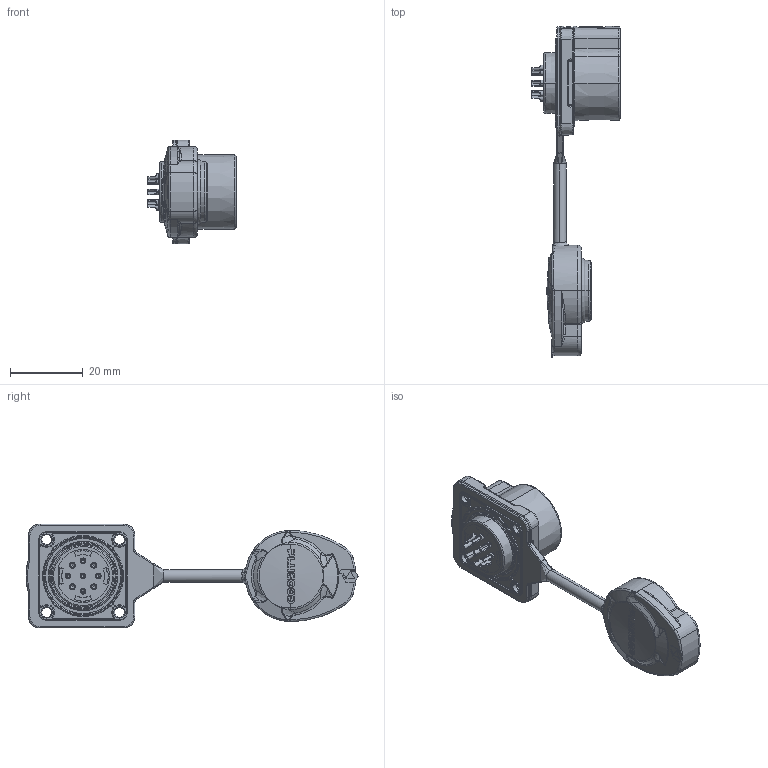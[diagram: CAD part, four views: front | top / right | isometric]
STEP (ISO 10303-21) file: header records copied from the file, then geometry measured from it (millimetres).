
FILE_DESCRIPTION (( 'STEP AP203' ), '1' );
FILE_NAME ('PLG16 9郋侐謂假蚾脣釱.STEP', '2025-10-29T08:18:37', ( '' ), ( '' ), 'SwSTEP 2.0', 'SolidWorks 2024', '' );
FILE_SCHEMA (( 'CONFIG_CONTROL_DESIGN' ));
Length unit declared in the file: millimetre
Products named in the file (1): PLG16 9芯四孔安装插座
Bounding box: 24.2 x 91.12 x 28.5 mm (x, y, z)
Volume: 10271.9 mm3; surface area: 9694.5 mm2
Topology: 1 solids, 3 shells, 1593 faces, 4053 edges, 2497 vertices
Faces by surface type: cylinder 472, plane 406, bspline 302, torus 260, cone 103, sphere 50
Entity records: 58170 total; most frequent: CARTESIAN_POINT 21979, ORIENTED_EDGE 7990, DIRECTION 7088, EDGE_CURVE 3995, AXIS2_PLACEMENT_3D 2836, VERTEX_POINT 2477, EDGE_LOOP 1678, ADVANCED_FACE 1593
